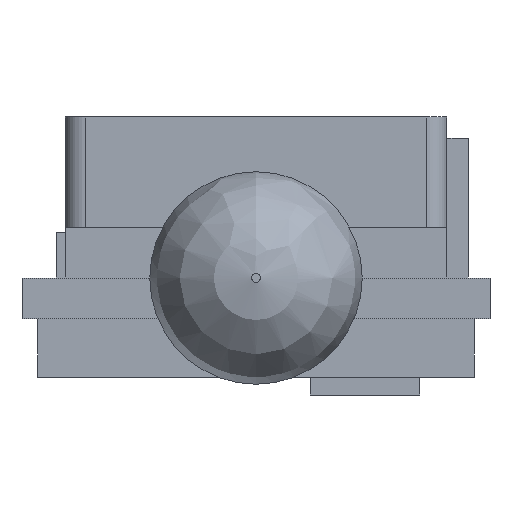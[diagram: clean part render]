
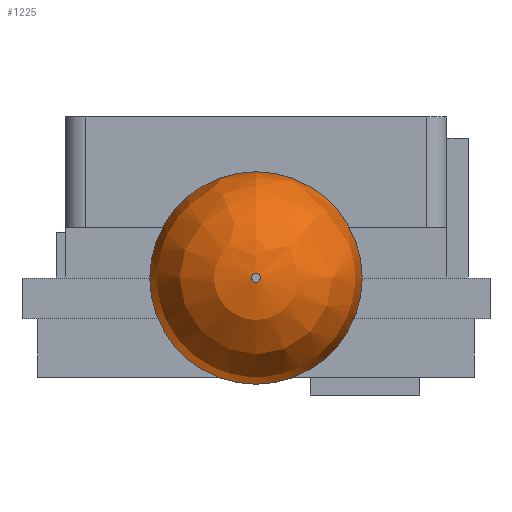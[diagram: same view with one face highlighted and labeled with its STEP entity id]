
A CAD part, front view. The second image highlights one B-rep face of the part: STEP entity #1225.
In plain terms, the highlighted free-form (B-spline) face has degree [2, 2] with [3, 9] control points.
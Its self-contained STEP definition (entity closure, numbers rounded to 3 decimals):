
#14=(
BOUNDED_SURFACE()
B_SPLINE_SURFACE(2,2,((#1984,#1985,#1986,#1987,#1988,#1989,#1990,#1991,
#1992),(#1993,#1994,#1995,#1996,#1997,#1998,#1999,#2000,#2001),(#2002,#2003,
#2004,#2005,#2006,#2007,#2008,#2009,#2010)),.UNSPECIFIED.,.F.,.T.,.F.)
B_SPLINE_SURFACE_WITH_KNOTS((3,3),(3,2,2,2,3),(0.,1.571),(-3.142,
-1.571,0.,1.571,3.142),.UNSPECIFIED.)
GEOMETRIC_REPRESENTATION_ITEM()
RATIONAL_B_SPLINE_SURFACE(((1.,0.707,1.,0.707,1.,
0.707,1.,0.707,1.),(0.707,0.5,
0.707,0.5,0.707,0.5,
0.707,0.5,0.707),(1.,0.707,
1.,0.707,1.,0.707,1.,0.707,1.)))
REPRESENTATION_ITEM('')
SURFACE()
);
#58=CIRCLE('',#1340,0.175);
#59=CIRCLE('',#1341,4.);
#60=CIRCLE('',#1342,4.175);
#61=CIRCLE('',#1343,4.175);
#138=FACE_OUTER_BOUND('',#221,.T.);
#221=EDGE_LOOP('',(#1044,#1045,#1046,#1047,#1048));
#599=VERTEX_POINT('',#2011);
#600=VERTEX_POINT('',#2013);
#601=VERTEX_POINT('',#2015);
#750=EDGE_CURVE('',#599,#599,#58,.T.);
#751=EDGE_CURVE('',#599,#600,#59,.T.);
#752=EDGE_CURVE('',#600,#601,#60,.T.);
#753=EDGE_CURVE('',#601,#600,#61,.T.);
#1044=ORIENTED_EDGE('',*,*,#750,.T.);
#1045=ORIENTED_EDGE('',*,*,#751,.T.);
#1046=ORIENTED_EDGE('',*,*,#752,.T.);
#1047=ORIENTED_EDGE('',*,*,#753,.T.);
#1048=ORIENTED_EDGE('',*,*,#751,.F.);
#1225=ADVANCED_FACE('',(#138),#14,.F.);
#1340=AXIS2_PLACEMENT_3D('',#2012,#1638,#1639);
#1341=AXIS2_PLACEMENT_3D('',#2014,#1640,#1641);
#1342=AXIS2_PLACEMENT_3D('',#2016,#1642,#1643);
#1343=AXIS2_PLACEMENT_3D('',#2017,#1644,#1645);
#1638=DIRECTION('center_axis',(0.,1.,0.));
#1639=DIRECTION('ref_axis',(1.,0.,0.));
#1640=DIRECTION('center_axis',(-1.,0.,0.));
#1641=DIRECTION('ref_axis',(0.,0.,1.));
#1642=DIRECTION('center_axis',(0.,-1.,0.));
#1643=DIRECTION('ref_axis',(1.,0.,0.));
#1644=DIRECTION('center_axis',(0.,-1.,0.));
#1645=DIRECTION('ref_axis',(1.,0.,0.));
#1984=CARTESIAN_POINT('Ctrl Pts',(-9.2,-83.927,5.775));
#1985=CARTESIAN_POINT('Ctrl Pts',(-13.375,-83.927,5.775));
#1986=CARTESIAN_POINT('Ctrl Pts',(-13.375,-83.927,1.6));
#1987=CARTESIAN_POINT('Ctrl Pts',(-13.375,-83.927,-2.575));
#1988=CARTESIAN_POINT('Ctrl Pts',(-9.2,-83.927,-2.575));
#1989=CARTESIAN_POINT('Ctrl Pts',(-5.025,-83.927,-2.575));
#1990=CARTESIAN_POINT('Ctrl Pts',(-5.025,-83.927,1.6));
#1991=CARTESIAN_POINT('Ctrl Pts',(-5.025,-83.927,5.775));
#1992=CARTESIAN_POINT('Ctrl Pts',(-9.2,-83.927,5.775));
#1993=CARTESIAN_POINT('Ctrl Pts',(-9.2,-87.927,5.775));
#1994=CARTESIAN_POINT('Ctrl Pts',(-13.375,-87.927,5.775));
#1995=CARTESIAN_POINT('Ctrl Pts',(-13.375,-87.927,1.6));
#1996=CARTESIAN_POINT('Ctrl Pts',(-13.375,-87.927,-2.575));
#1997=CARTESIAN_POINT('Ctrl Pts',(-9.2,-87.927,-2.575));
#1998=CARTESIAN_POINT('Ctrl Pts',(-5.025,-87.927,-2.575));
#1999=CARTESIAN_POINT('Ctrl Pts',(-5.025,-87.927,1.6));
#2000=CARTESIAN_POINT('Ctrl Pts',(-5.025,-87.927,5.775));
#2001=CARTESIAN_POINT('Ctrl Pts',(-9.2,-87.927,5.775));
#2002=CARTESIAN_POINT('Ctrl Pts',(-9.2,-87.927,1.775));
#2003=CARTESIAN_POINT('Ctrl Pts',(-9.375,-87.927,1.775));
#2004=CARTESIAN_POINT('Ctrl Pts',(-9.375,-87.927,1.6));
#2005=CARTESIAN_POINT('Ctrl Pts',(-9.375,-87.927,1.425));
#2006=CARTESIAN_POINT('Ctrl Pts',(-9.2,-87.927,1.425));
#2007=CARTESIAN_POINT('Ctrl Pts',(-9.025,-87.927,1.425));
#2008=CARTESIAN_POINT('Ctrl Pts',(-9.025,-87.927,1.6));
#2009=CARTESIAN_POINT('Ctrl Pts',(-9.025,-87.927,1.775));
#2010=CARTESIAN_POINT('Ctrl Pts',(-9.2,-87.927,1.775));
#2011=CARTESIAN_POINT('',(-9.2,-87.927,1.775));
#2012=CARTESIAN_POINT('Origin',(-9.2,-87.927,1.6));
#2013=CARTESIAN_POINT('',(-9.2,-83.927,5.775));
#2014=CARTESIAN_POINT('Origin',(-9.2,-83.927,1.775));
#2015=CARTESIAN_POINT('',(-13.375,-83.927,1.6));
#2016=CARTESIAN_POINT('Origin',(-9.2,-83.927,1.6));
#2017=CARTESIAN_POINT('Origin',(-9.2,-83.927,1.6));
